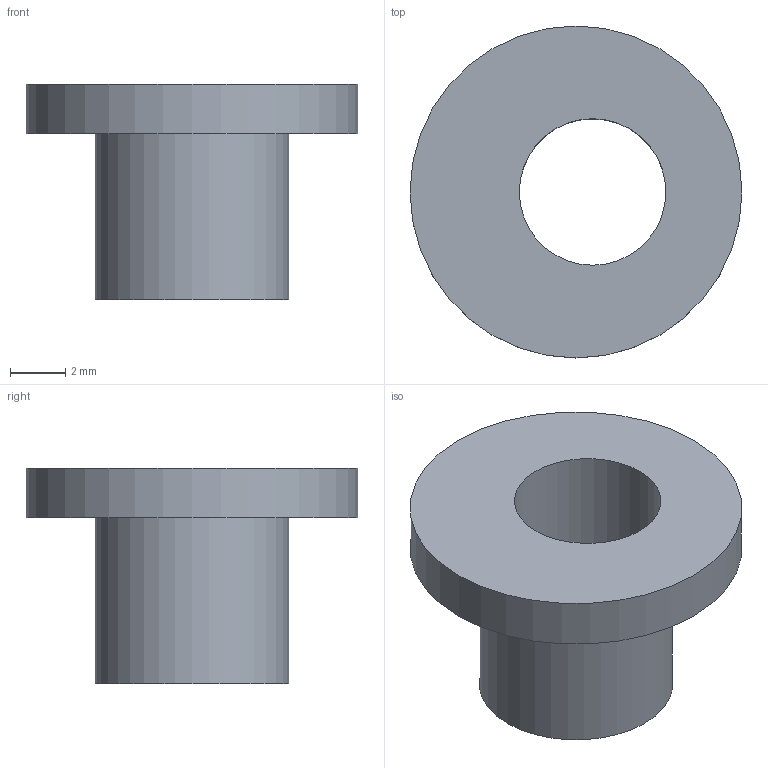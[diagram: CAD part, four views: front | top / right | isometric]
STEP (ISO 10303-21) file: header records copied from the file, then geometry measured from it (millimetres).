
FILE_DESCRIPTION(('Open CASCADE Model'),'2;1');
FILE_NAME('Open CASCADE Shape Model','2026-10-21T12:04:46',('Author'),( 'Open CASCADE'),'Open CASCADE STEP processor 7.9','Open CASCADE 7.9' ,'Unknown');
FILE_SCHEMA(('AUTOMOTIVE_DESIGN { 1 0 10303 214 1 1 1 1 }'));
Length unit declared in the file: millimetre
Products named in the file (1): Open CASCADE STEP translator 7.9 11
Bounding box: 12 x 12 x 7.8 mm (x, y, z)
Volume: 262.4 mm3; surface area: 511.7 mm2
Topology: 1 solids, 1 shells, 6 faces, 9 edges, 6 vertices
Faces by surface type: cylinder 3, plane 3
Full cylindrical faces by diameter (mm): 5.3 x1, 7 x1, 12 x1
Entity records: 276 total; most frequent: CARTESIAN_POINT 52, DIRECTION 45, ORIENTED_EDGE 18, PCURVE 18, DEFINITIONAL_REPRESENTATION 18, LINE 15, VECTOR 15, AXIS2_PLACEMENT_3D 13
